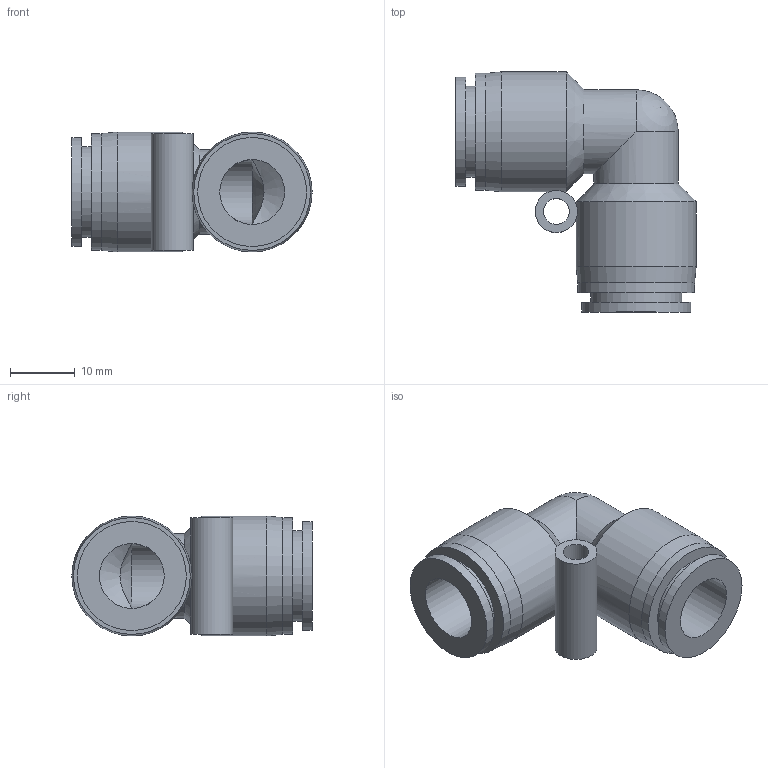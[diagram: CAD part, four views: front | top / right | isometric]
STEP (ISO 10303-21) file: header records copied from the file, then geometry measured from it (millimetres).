
FILE_DESCRIPTION((''),'2;1');
FILE_NAME('S:\UTecnico\ArchivioUT\Speciali Clienti\Speciali KONFIT\Plastica\RP\RP 54\RP540010.stp','2012-05-15T10:00:23',('UT5'),(''),'Autodesk Inventor 2012','Autodesk Inventor 2012','');
FILE_SCHEMA(('AUTOMOTIVE_DESIGN { 1 0 10303 214 1 1 1 1 }'));
Length unit declared in the file: millimetre
Products named in the file (1): RP540010
Bounding box: 37.05 x 37.05 x 18.5 mm (x, y, z)
Volume: 7831.4 mm3; surface area: 5857.7 mm2
Topology: 1 solids, 1 shells, 29 faces, 64 edges, 40 vertices
Faces by surface type: cylinder 14, plane 8, cone 6, sphere 1
Full cylindrical faces by diameter (mm): 4 x1, 6.5 x1, 10 x2, 13 x2, 14 x2, 16.8 x2, 18 x2, 18.5 x2
Entity records: 772 total; most frequent: CARTESIAN_POINT 192, DIRECTION 120, ORIENTED_EDGE 66, AXIS2_PLACEMENT_3D 60, EDGE_LOOP 59, EDGE_CURVE 33, VERTEX_POINT 30, FACE_BOUND 30
